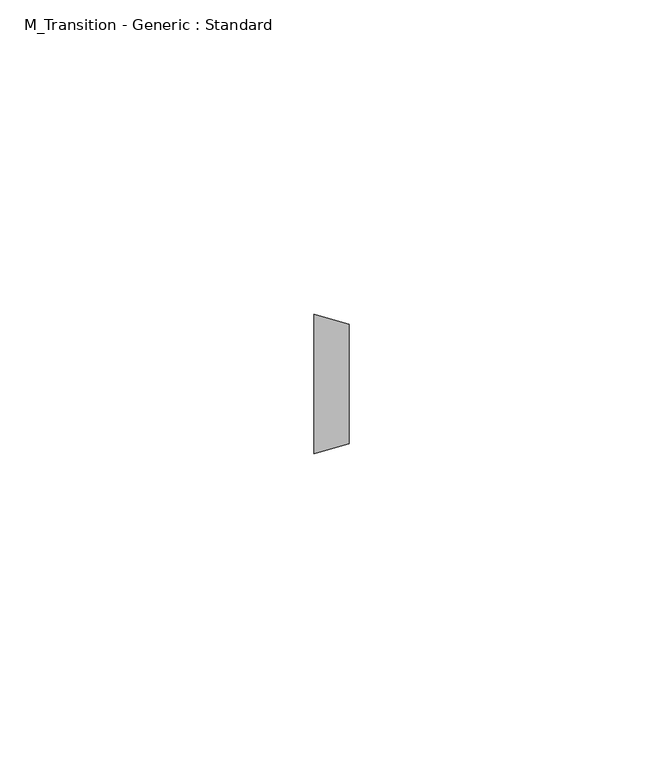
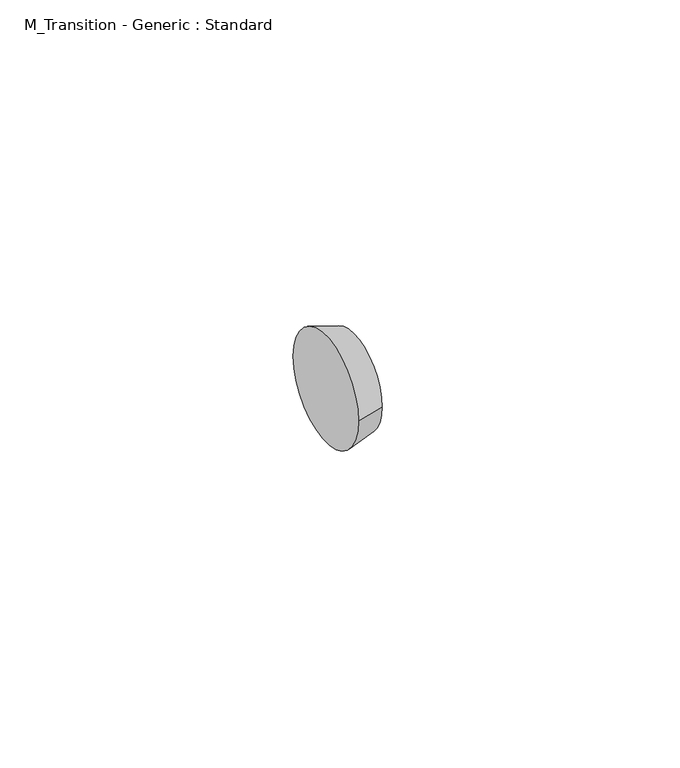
"""IFC4 building model written with IfcOpenShell, lengths in millimetres: pipe fitting geometry, M_Transition - Generic : Standard."""

from ifc_helpers import new_model, si_unit, frame, origin, place, context, project, spatial, polyline, circle_curve, source, transform, mapped, element, save
from ifc_brep_helpers import plane_surface, revolved_surface, advanced_brep


def m_transition_generic_standard_5f8a9689(model_context):
    return source(origin(), model_context, "Body", "AdvancedBrep", [
        advanced_brep(
        [(5.55625, -9.525, 0.0), (5.55625, 9.525, 0.0), (0.0, -11.1125, 0.0), (0.0, 11.1125, 0.0)],
        [
            (0, 1, circle_curve(frame((5.55625, 0.0, 0.0), z_axis=(1.0, 0.0, 0.0), x_axis=(0.0, -1.0, 0.0)), 9.525)),
            (1, 0, circle_curve(frame((5.55625, 0.0, 0.0), z_axis=(1.0, 0.0, 0.0), x_axis=(0.0, 1.0, 0.0)), 9.525)),
            (2, 3, circle_curve(frame((0.0, 0.0, 0.0), z_axis=(-1.0, 0.0, 0.0), x_axis=(0.0, 1.0, 0.0)), 11.1125)),
            (3, 2, circle_curve(frame((0.0, 0.0, 0.0), z_axis=(-1.0, 0.0, 0.0), x_axis=(0.0, -1.0, 0.0)), 11.1125)),
            (3, 1),
            (0, 2),
        ],
        [
            plane_surface(frame((5.55625, 0.0, 0.0), z_axis=(1.0, 0.0, 0.0), x_axis=(0.0, 0.0, -1.0))),
            plane_surface(frame((0.0, 0.0, 0.0), z_axis=(-1.0, 0.0, 0.0), x_axis=(0.0, 0.0, -1.0))),
            revolved_surface(polyline([(5.556249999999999, -9.525000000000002, 0.0), (0.0, -11.1125, 0.0)]), (38.89375, 0.0, 0.0), (-1.0, 0.0, 0.0)),
            revolved_surface(polyline([(5.556249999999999, 9.525000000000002, 0.0), (0.0, 11.1125, 0.0)]), (38.89375, 0.0, 0.0), (-1.0, 0.0, 0.0)),
        ],
        [
            (0, [[1, 2]]),
            (1, [[3, 4]]),
            (2, [[-4, 5, -1, 6]]),
            (3, [[-3, -6, -2, -5]]),
        ],
    ),
    ])


if __name__ == "__main__":
    model = new_model("IFC4")
    model_context = context("Model", 3, world=origin())
    ifc_project = project(units=[si_unit("LENGTHUNIT", "METRE", prefix="MILLI")], contexts=[model_context])
    site = spatial("IfcSite", under=ifc_project)
    building = spatial("IfcBuilding", under=site)
    placement = place(None, origin())
    m_transition_generic_standard_shape = m_transition_generic_standard_5f8a9689(model_context)
    element("IfcPipeFitting", 1, ObjectType="M_Transition - Generic : Standard", at=placement, inside=building, context=model_context, shape_type="MappedRepresentation", body=[
        mapped(m_transition_generic_standard_shape, transform((0.0, 0.0, 0.0), x_axis=(1.0, 0.0, 0.0), y_axis=(0.0, 1.0, 0.0), z_axis=(0.0, 0.0, 1.0))),
    ])
    save(model, "model.ifc")
